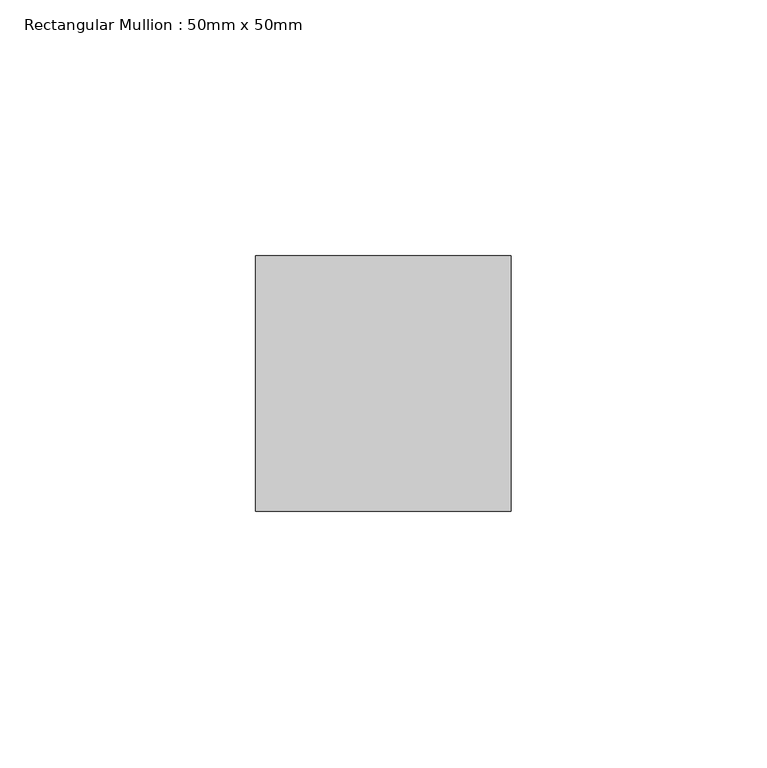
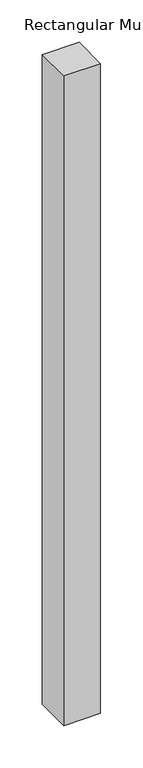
"""IFC4 building model written with IfcOpenShell, lengths in millimetres: member geometry, Rectangular Mullion : 50mm x 50mm."""

from ifc_helpers import new_model, si_unit, frame, origin, place, context, project, spatial, polyline, outline, extrude, source, transform, mapped, element, save


def rectangular_mullion_50mm_x_50mm_17337704(model_context):
    return source(origin(), model_context, "Body", "SweptSolid", [
        extrude(outline(polyline([(25.0, 25.0), (25.0, -25.0), (-25.0, -25.0), (-25.0, 25.0), (25.0, 25.0)])), frame((0.0, 0.0, -934.9933362), z_axis=(0.0, 0.0, 1.0), x_axis=(1.0, 0.0, 0.0)), (0.0, 0.0, 1.0), 934.9933362),
    ])


if __name__ == "__main__":
    model = new_model("IFC4")
    model_context = context("Model", 3, world=origin())
    ifc_project = project(units=[si_unit("LENGTHUNIT", "METRE", prefix="MILLI")], contexts=[model_context])
    site = spatial("IfcSite", under=ifc_project)
    building = spatial("IfcBuilding", under=site)
    placement = place(None, origin())
    rectangular_mullion_50mm_x_50mm_shape = rectangular_mullion_50mm_x_50mm_17337704(model_context)
    element("IfcMember", 1, ObjectType="Rectangular Mullion : 50mm x 50mm", at=placement, inside=building, context=model_context, shape_type="MappedRepresentation", body=[
        mapped(rectangular_mullion_50mm_x_50mm_shape, transform((0.0, 0.0, 0.0), x_axis=(1.0, 0.0, 0.0), y_axis=(0.0, 1.0, 0.0), z_axis=(0.0, 0.0, 1.0))),
    ])
    save(model, "model.ifc")
